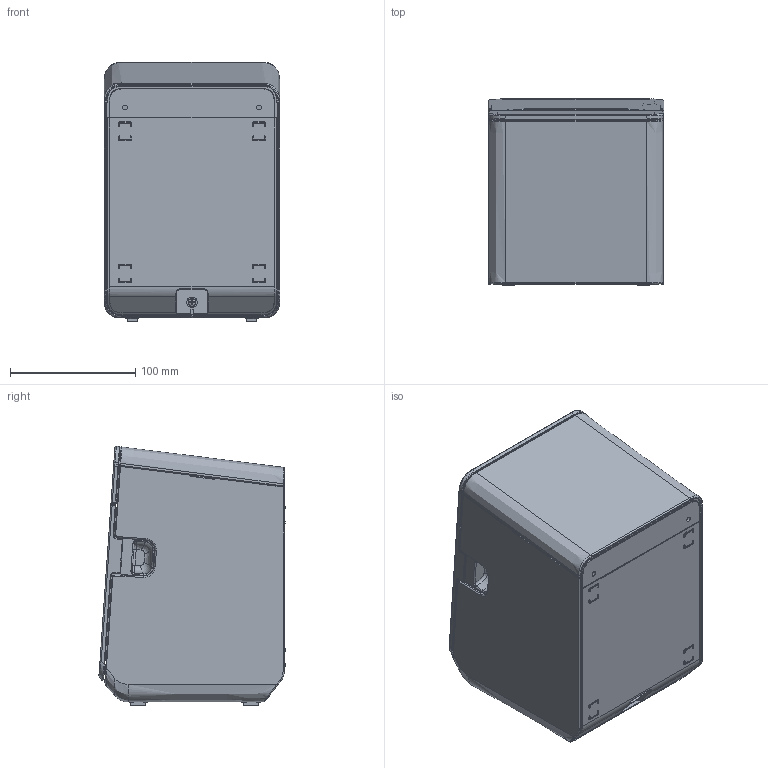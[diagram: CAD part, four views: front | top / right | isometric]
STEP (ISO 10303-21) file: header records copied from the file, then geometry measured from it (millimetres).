
FILE_DESCRIPTION((''),'2;1');
FILE_NAME('TM-L100_CLOSE','2025-01-10T14:56:33',('5012938'),(''),'CREO PARAMETRIC BY PTC INC, 2022281','CREO PARAMETRIC BY PTC INC, 2022281','');
FILE_SCHEMA(('AUTOMOTIVE_DESIGN { 1 0 10303 214 1 1 1 1 }'));
Products named in the file (1): TM-L100_CLOSE
Bounding box: 140 x 148.51 x 207.04 mm (x, y, z)
Surface area: 441617.7 mm2 (no closed solid volume)
Topology: 0 solids, 22 shells, 3411 faces, 9865 edges, 6414 vertices
Faces by surface type: plane 1953, cylinder 876, bspline 286, torus 139, cone 89, extrusion 44, sphere 24
Entity records: 157579 total; most frequent: CARTESIAN_POINT 69653, ORIENTED_EDGE 18720, DIRECTION 17107, EDGE_CURVE 9865, VECTOR 6795, LINE 6751, VERTEX_POINT 6414, AXIS2_PLACEMENT_3D 5156
